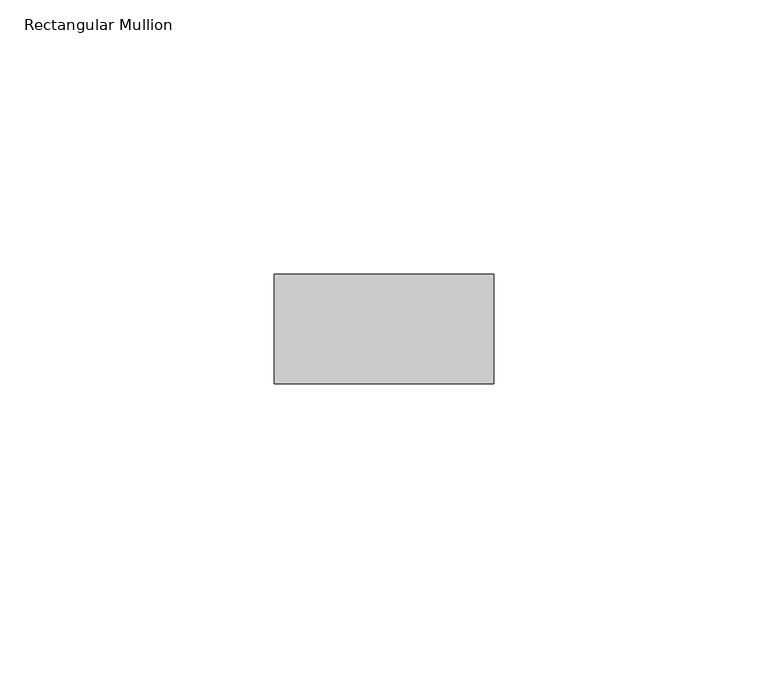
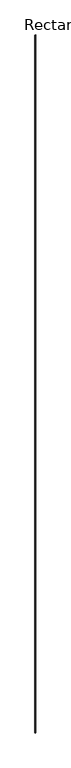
"""IFC4 building model written with IfcOpenShell, lengths in millimetres: member geometry, Rectangular Mullion : RIPA 4x2 cm."""

from ifc_helpers import new_model, si_unit, frame, origin, place, context, project, spatial, polyline, outline, extrude, source, transform, mapped, element, save


def rectangular_mullion_3ea6ea9c(model_context):
    return source(origin(), model_context, "Body", "SweptSolid", [
        extrude(outline(polyline([(20.0, 0.0), (20.0, -20.0), (-20.0, -20.0), (-20.0, 0.0), (20.0, 0.0)])), frame((0.0, 0.0, -38116.0499734), z_axis=(0.0, 0.0, 1.0), x_axis=(1.0, 0.0, 0.0)), (0.0, 0.0, 1.0), 38116.0499734),
    ])


if __name__ == "__main__":
    model = new_model("IFC4")
    model_context = context("Model", 3, world=origin())
    ifc_project = project(units=[si_unit("LENGTHUNIT", "METRE", prefix="MILLI")], contexts=[model_context])
    site = spatial("IfcSite", under=ifc_project)
    building = spatial("IfcBuilding", under=site)
    placement = place(None, origin())
    rectangular_mullion_shape = rectangular_mullion_3ea6ea9c(model_context)
    element("IfcMember", 1, ObjectType="Rectangular Mullion : RIPA 4x2 cm", at=placement, inside=building, context=model_context, shape_type="MappedRepresentation", body=[
        mapped(rectangular_mullion_shape, transform((0.0, 0.0, 0.0), x_axis=(1.0, 0.0, 0.0), y_axis=(0.0, 1.0, 0.0), z_axis=(0.0, 0.0, 1.0))),
    ])
    save(model, "model.ifc")
